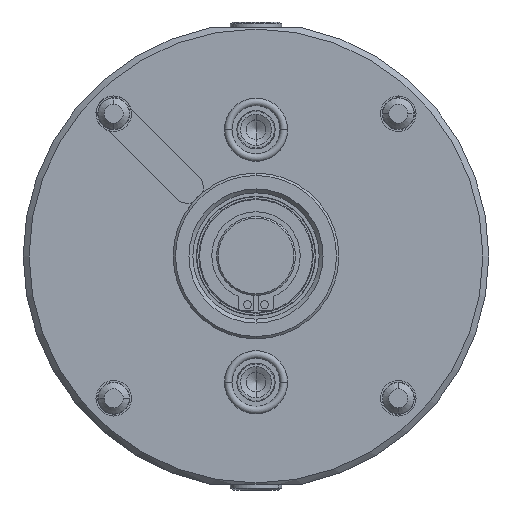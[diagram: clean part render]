
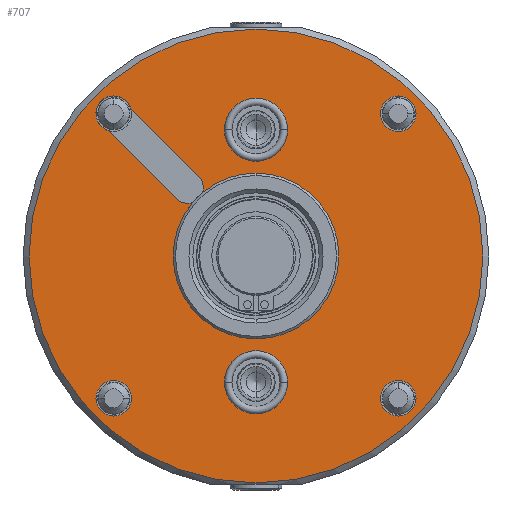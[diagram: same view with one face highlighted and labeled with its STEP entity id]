
A CAD part, front view. The second image highlights one B-rep face of the part: STEP entity #707.
In plain terms, the highlighted planar face has unit normal (0, -1, 0).
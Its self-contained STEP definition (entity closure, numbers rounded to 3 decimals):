
#463=CARTESIAN_POINT('',(0.0,0.0,-21.0));
#464=VERTEX_POINT('',#463);
#480=CARTESIAN_POINT('',(0.0,0.0,21.0));
#481=VERTEX_POINT('',#480);
#488=CARTESIAN_POINT('',(-13.529,0.0,16.062));
#489=VERTEX_POINT('',#488);
#490=CARTESIAN_POINT('',(0.0,0.0,0.0));
#491=DIRECTION('',(0.0,1.0,0.0));
#492=DIRECTION('',(0.0,0.0,1.0));
#493=AXIS2_PLACEMENT_3D('',#490,#491,#492);
#494=CIRCLE('',#493,21.0);
#495=EDGE_CURVE('no 1580',#489,#481,#494,.T.);
#497=CARTESIAN_POINT('',(-16.062,0.0,13.529));
#498=VERTEX_POINT('',#497);
#506=CARTESIAN_POINT('',(0.0,0.0,0.0));
#507=DIRECTION('',(0.0,1.0,0.0));
#508=DIRECTION('',(0.0,0.0,1.0));
#509=AXIS2_PLACEMENT_3D('',#506,#507,#508);
#510=CIRCLE('',#509,21.0);
#511=EDGE_CURVE('no 1590',#464,#498,#510,.T.);
#521=CARTESIAN_POINT('',(-20.153,0.0,14.496));
#522=VERTEX_POINT('',#521);
#523=CARTESIAN_POINT('',(-17.324,0.0,17.324));
#524=DIRECTION('',(0.0,-1.0,0.0));
#525=DIRECTION('',(0.0,0.0,-1.0));
#526=AXIS2_PLACEMENT_3D('',#523,#524,#525);
#527=CIRCLE('',#526,4.0);
#528=EDGE_CURVE('no 1599',#522,#498,#527,.T.);
#529=ORIENTED_EDGE('',*,*,#528,.F.);
#530=CARTESIAN_POINT('',(-37.433,0.0,31.776));
#531=VERTEX_POINT('',#530);
#532=CARTESIAN_POINT('',(-37.433,0.0,31.776));
#533=DIRECTION('',(0.707,0.0,-0.707));
#534=VECTOR('',#533,1.0);
#535=LINE('',#532,#534);
#536=EDGE_CURVE('no 1605',#531,#522,#535,.T.);
#537=ORIENTED_EDGE('',*,*,#536,.F.);
#538=CARTESIAN_POINT('',(-36.062,0.0,40.562));
#539=VERTEX_POINT('',#538);
#540=CARTESIAN_POINT('',(-36.062,0.0,36.062));
#541=DIRECTION('',(0.0,-1.0,0.0));
#542=DIRECTION('',(0.0,0.0,-1.0));
#543=AXIS2_PLACEMENT_3D('',#540,#541,#542);
#544=CIRCLE('',#543,4.5);
#545=EDGE_CURVE('no 1611',#539,#531,#544,.T.);
#546=ORIENTED_EDGE('',*,*,#545,.F.);
#547=CARTESIAN_POINT('',(-31.776,0.0,37.433));
#548=VERTEX_POINT('',#547);
#549=CARTESIAN_POINT('',(-36.062,0.0,36.062));
#550=DIRECTION('',(0.0,-1.0,0.0));
#551=DIRECTION('',(0.0,0.0,-1.0));
#552=AXIS2_PLACEMENT_3D('',#549,#550,#551);
#553=CIRCLE('',#552,4.5);
#554=EDGE_CURVE('no 1617',#548,#539,#553,.T.);
#555=ORIENTED_EDGE('',*,*,#554,.F.);
#556=CARTESIAN_POINT('',(-14.496,0.0,20.153));
#557=VERTEX_POINT('',#556);
#558=CARTESIAN_POINT('',(-31.776,0.0,37.433));
#559=DIRECTION('',(-0.707,0.0,0.707));
#560=VECTOR('',#559,1.0);
#561=LINE('',#558,#560);
#562=EDGE_CURVE('no 1623',#557,#548,#561,.T.);
#563=ORIENTED_EDGE('',*,*,#562,.F.);
#564=CARTESIAN_POINT('',(-17.324,0.0,17.324));
#565=DIRECTION('',(0.0,-1.0,0.0));
#566=DIRECTION('',(0.0,0.0,-1.0));
#567=AXIS2_PLACEMENT_3D('',#564,#565,#566);
#568=CIRCLE('',#567,4.0);
#569=EDGE_CURVE('no 1627',#489,#557,#568,.T.);
#570=ORIENTED_EDGE('',*,*,#569,.F.);
#571=ORIENTED_EDGE('',*,*,#495,.T.);
#572=CARTESIAN_POINT('',(0.0,0.0,0.0));
#573=DIRECTION('',(0.0,1.0,0.0));
#574=DIRECTION('',(0.0,0.0,1.0));
#575=AXIS2_PLACEMENT_3D('',#572,#573,#574);
#576=CIRCLE('',#575,21.0);
#577=EDGE_CURVE('no 1633',#481,#464,#576,.T.);
#578=ORIENTED_EDGE('',*,*,#577,.T.);
#579=ORIENTED_EDGE('',*,*,#511,.T.);
#580=EDGE_LOOP('',(#529,#537,#546,#555,#563,#570,#571,#578,#579));
#581=FACE_BOUND('',#580,.T.);
#582=CARTESIAN_POINT('',(-36.062,0.0,-31.562));
#583=VERTEX_POINT('',#582);
#584=CARTESIAN_POINT('',(-36.062,0.0,-40.562));
#585=VERTEX_POINT('',#584);
#586=CARTESIAN_POINT('',(-36.062,0.0,-36.062));
#587=DIRECTION('',(0.0,-1.0,0.0));
#588=DIRECTION('',(0.0,0.0,-1.0));
#589=AXIS2_PLACEMENT_3D('',#586,#587,#588);
#590=CIRCLE('',#589,4.5);
#591=EDGE_CURVE('no 1644',#583,#585,#590,.T.);
#592=ORIENTED_EDGE('',*,*,#591,.F.);
#593=CARTESIAN_POINT('',(-36.062,0.0,-36.062));
#594=DIRECTION('',(0.0,-1.0,0.0));
#595=DIRECTION('',(0.0,0.0,-1.0));
#596=AXIS2_PLACEMENT_3D('',#593,#594,#595);
#597=CIRCLE('',#596,4.5);
#598=EDGE_CURVE('no 1648',#585,#583,#597,.T.);
#599=ORIENTED_EDGE('',*,*,#598,.F.);
#600=EDGE_LOOP('',(#592,#599));
#601=FACE_BOUND('',#600,.T.);
#602=CARTESIAN_POINT('',(36.062,0.0,-31.562));
#603=VERTEX_POINT('',#602);
#604=CARTESIAN_POINT('',(36.062,0.0,-40.562));
#605=VERTEX_POINT('',#604);
#606=CARTESIAN_POINT('',(36.062,0.0,-36.062));
#607=DIRECTION('',(0.0,-1.0,0.0));
#608=DIRECTION('',(0.0,0.0,-1.0));
#609=AXIS2_PLACEMENT_3D('',#606,#607,#608);
#610=CIRCLE('',#609,4.5);
#611=EDGE_CURVE('no 1657',#603,#605,#610,.T.);
#612=ORIENTED_EDGE('',*,*,#611,.F.);
#613=CARTESIAN_POINT('',(36.062,0.0,-36.062));
#614=DIRECTION('',(0.0,-1.0,0.0));
#615=DIRECTION('',(0.0,0.0,-1.0));
#616=AXIS2_PLACEMENT_3D('',#613,#614,#615);
#617=CIRCLE('',#616,4.5);
#618=EDGE_CURVE('no 1661',#605,#603,#617,.T.);
#619=ORIENTED_EDGE('',*,*,#618,.F.);
#620=EDGE_LOOP('',(#612,#619));
#621=FACE_BOUND('',#620,.T.);
#622=CARTESIAN_POINT('',(36.062,0.0,40.562));
#623=VERTEX_POINT('',#622);
#624=CARTESIAN_POINT('',(36.062,0.0,31.562));
#625=VERTEX_POINT('',#624);
#626=CARTESIAN_POINT('',(36.062,0.0,36.062));
#627=DIRECTION('',(0.0,-1.0,0.0));
#628=DIRECTION('',(0.0,0.0,-1.0));
#629=AXIS2_PLACEMENT_3D('',#626,#627,#628);
#630=CIRCLE('',#629,4.5);
#631=EDGE_CURVE('no 1670',#623,#625,#630,.T.);
#632=ORIENTED_EDGE('',*,*,#631,.F.);
#633=CARTESIAN_POINT('',(36.062,0.0,36.062));
#634=DIRECTION('',(0.0,-1.0,0.0));
#635=DIRECTION('',(0.0,0.0,-1.0));
#636=AXIS2_PLACEMENT_3D('',#633,#634,#635);
#637=CIRCLE('',#636,4.5);
#638=EDGE_CURVE('no 1674',#625,#623,#637,.T.);
#639=ORIENTED_EDGE('',*,*,#638,.F.);
#640=EDGE_LOOP('',(#632,#639));
#641=FACE_BOUND('',#640,.T.);
#642=CARTESIAN_POINT('',(0.0,0.0,-24.0));
#643=VERTEX_POINT('',#642);
#644=CARTESIAN_POINT('',(0.0,0.0,-40.0));
#645=VERTEX_POINT('',#644);
#646=CARTESIAN_POINT('',(0.0,0.0,-32.0));
#647=DIRECTION('',(0.0,-1.0,0.0));
#648=DIRECTION('',(0.0,0.0,-1.0));
#649=AXIS2_PLACEMENT_3D('',#646,#647,#648);
#650=CIRCLE('',#649,8.0);
#651=EDGE_CURVE('no 1683',#643,#645,#650,.T.);
#652=ORIENTED_EDGE('',*,*,#651,.F.);
#653=CARTESIAN_POINT('',(0.0,0.0,-32.0));
#654=DIRECTION('',(0.0,-1.0,0.0));
#655=DIRECTION('',(0.0,0.0,-1.0));
#656=AXIS2_PLACEMENT_3D('',#653,#654,#655);
#657=CIRCLE('',#656,8.0);
#658=EDGE_CURVE('no 1687',#645,#643,#657,.T.);
#659=ORIENTED_EDGE('',*,*,#658,.F.);
#660=EDGE_LOOP('',(#652,#659));
#661=FACE_BOUND('',#660,.T.);
#662=CARTESIAN_POINT('',(0.0,0.0,40.0));
#663=VERTEX_POINT('',#662);
#664=CARTESIAN_POINT('',(0.0,0.0,24.0));
#665=VERTEX_POINT('',#664);
#666=CARTESIAN_POINT('',(0.0,0.0,32.0));
#667=DIRECTION('',(0.0,-1.0,0.0));
#668=DIRECTION('',(0.0,0.0,-1.0));
#669=AXIS2_PLACEMENT_3D('',#666,#667,#668);
#670=CIRCLE('',#669,8.0);
#671=EDGE_CURVE('no 1696',#663,#665,#670,.T.);
#672=ORIENTED_EDGE('',*,*,#671,.F.);
#673=CARTESIAN_POINT('',(0.0,0.0,32.0));
#674=DIRECTION('',(0.0,-1.0,0.0));
#675=DIRECTION('',(0.0,0.0,-1.0));
#676=AXIS2_PLACEMENT_3D('',#673,#674,#675);
#677=CIRCLE('',#676,8.0);
#678=EDGE_CURVE('no 1700',#665,#663,#677,.T.);
#679=ORIENTED_EDGE('',*,*,#678,.F.);
#680=EDGE_LOOP('',(#672,#679));
#681=FACE_BOUND('',#680,.T.);
#682=CARTESIAN_POINT('',(0.0,0.0,-57.5));
#683=VERTEX_POINT('',#682);
#684=CARTESIAN_POINT('',(0.0,0.0,57.5));
#685=VERTEX_POINT('',#684);
#686=CARTESIAN_POINT('',(0.0,0.0,0.0));
#687=DIRECTION('',(0.0,-1.0,0.0));
#688=DIRECTION('',(0.0,0.0,-1.0));
#689=AXIS2_PLACEMENT_3D('',#686,#687,#688);
#690=CIRCLE('',#689,57.5);
#691=EDGE_CURVE('no 1709',#683,#685,#690,.T.);
#692=ORIENTED_EDGE('',*,*,#691,.T.);
#693=CARTESIAN_POINT('',(0.0,0.0,0.0));
#694=DIRECTION('',(0.0,-1.0,0.0));
#695=DIRECTION('',(0.0,0.0,-1.0));
#696=AXIS2_PLACEMENT_3D('',#693,#694,#695);
#697=CIRCLE('',#696,57.5);
#698=EDGE_CURVE('no 1713',#685,#683,#697,.T.);
#699=ORIENTED_EDGE('',*,*,#698,.T.);
#700=EDGE_LOOP('',(#692,#699));
#701=FACE_OUTER_BOUND('',#700,.T.);
#702=CARTESIAN_POINT('',(-59.0,0.0,0.0));
#703=DIRECTION('',(0.0,-1.0,0.0));
#704=DIRECTION('',(0.0,0.0,-1.0));
#705=AXIS2_PLACEMENT_3D('',#702,#703,#704);
#706=PLANE('',#705);
#707=ADVANCED_FACE('no 1592',(#581,#601,#621,#641,#661,#681,#701),#706,.T.);
